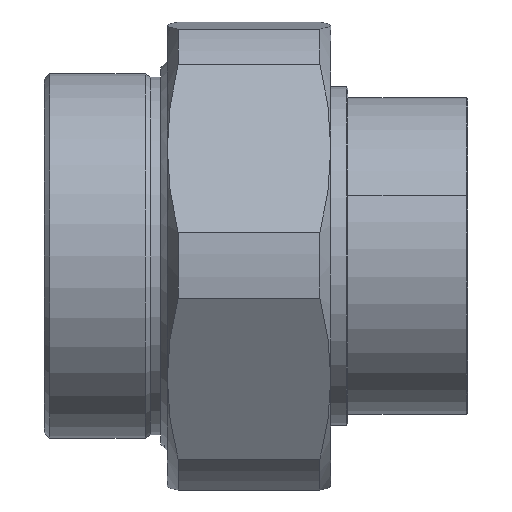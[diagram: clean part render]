
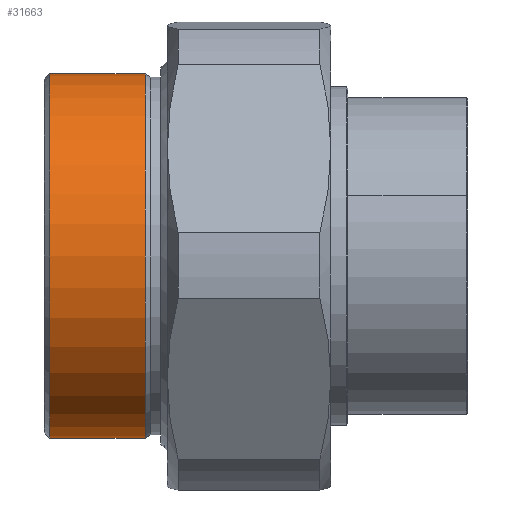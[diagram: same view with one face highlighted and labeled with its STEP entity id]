
A CAD part, front view. The second image highlights one B-rep face of the part: STEP entity #31663.
In plain terms, the highlighted cylindrical face has radius 34 mm (diameter 68 mm), a partial arc.
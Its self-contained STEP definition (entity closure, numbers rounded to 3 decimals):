
#7396 = VERTEX_POINT('',#7397);
#7397 = CARTESIAN_POINT('',(-115.615,5.796,72.65));
#7411 = CONICAL_SURFACE('',#7412,34.,0.785);
#7412 = AXIS2_PLACEMENT_3D('',#7413,#7414,#7415);
#7413 = CARTESIAN_POINT('',(-115.615,5.796,38.65));
#7414 = DIRECTION('',(1.,0.,0.));
#7415 = DIRECTION('',(0.,0.,-1.));
#7424 = VERTEX_POINT('',#7425);
#7425 = CARTESIAN_POINT('',(-115.615,5.796,4.65));
#7440 = CYLINDRICAL_SURFACE('',#7441,34.);
#7441 = AXIS2_PLACEMENT_3D('',#7442,#7443,#7444);
#7442 = CARTESIAN_POINT('',(-57.904,5.796,38.65));
#7443 = DIRECTION('',(1.,0.,0.));
#7444 = DIRECTION('',(0.,0.,-1.));
#11808 = VERTEX_POINT('',#11809);
#11809 = CARTESIAN_POINT('',(-97.854,5.796,4.65));
#11823 = CONICAL_SURFACE('',#11824,34.,0.605);
#11824 = AXIS2_PLACEMENT_3D('',#11825,#11826,#11827);
#11825 = CARTESIAN_POINT('',(-97.854,5.796,38.65));
#11826 = DIRECTION('',(-1.,0.,0.));
#11827 = DIRECTION('',(0.,0.,1.));
#11836 = VERTEX_POINT('',#11837);
#11837 = CARTESIAN_POINT('',(-97.854,5.796,72.65));
#11884 = EDGE_CURVE('',#7396,#11836,#11885,.T.);
#11885 = SURFACE_CURVE('',#11886,(#11890,#11897),.PCURVE_S1.);
#11886 = LINE('',#11887,#11888);
#11887 = CARTESIAN_POINT('',(-57.904,5.796,72.65));
#11888 = VECTOR('',#11889,1.);
#11889 = DIRECTION('',(1.,0.,0.));
#11890 = PCURVE('',#7440,#11891);
#11891 = DEFINITIONAL_REPRESENTATION('',(#11892),#11896);
#11892 = LINE('',#11893,#11894);
#11893 = CARTESIAN_POINT('',(3.142,0.));
#11894 = VECTOR('',#11895,1.);
#11895 = DIRECTION('',(0.,1.));
#11896 = ( GEOMETRIC_REPRESENTATION_CONTEXT(2) 
PARAMETRIC_REPRESENTATION_CONTEXT() REPRESENTATION_CONTEXT('2D SPACE',''
  ) );
#11897 = PCURVE('',#11898,#11903);
#11898 = CYLINDRICAL_SURFACE('',#11899,34.);
#11899 = AXIS2_PLACEMENT_3D('',#11900,#11901,#11902);
#11900 = CARTESIAN_POINT('',(-57.904,5.796,38.65));
#11901 = DIRECTION('',(1.,0.,0.));
#11902 = DIRECTION('',(0.,0.,-1.));
#11903 = DEFINITIONAL_REPRESENTATION('',(#11904),#11908);
#11904 = LINE('',#11905,#11906);
#11905 = CARTESIAN_POINT('',(3.142,0.));
#11906 = VECTOR('',#11907,1.);
#11907 = DIRECTION('',(0.,1.));
#11908 = ( GEOMETRIC_REPRESENTATION_CONTEXT(2) 
PARAMETRIC_REPRESENTATION_CONTEXT() REPRESENTATION_CONTEXT('2D SPACE',''
  ) );
#11911 = EDGE_CURVE('',#7424,#11808,#11912,.T.);
#11912 = SURFACE_CURVE('',#11913,(#11917,#11924),.PCURVE_S1.);
#11913 = LINE('',#11914,#11915);
#11914 = CARTESIAN_POINT('',(-57.904,5.796,4.65));
#11915 = VECTOR('',#11916,1.);
#11916 = DIRECTION('',(1.,0.,0.));
#11917 = PCURVE('',#7440,#11918);
#11918 = DEFINITIONAL_REPRESENTATION('',(#11919),#11923);
#11919 = LINE('',#11920,#11921);
#11920 = CARTESIAN_POINT('',(0.,0.));
#11921 = VECTOR('',#11922,1.);
#11922 = DIRECTION('',(0.,1.));
#11923 = ( GEOMETRIC_REPRESENTATION_CONTEXT(2) 
PARAMETRIC_REPRESENTATION_CONTEXT() REPRESENTATION_CONTEXT('2D SPACE',''
  ) );
#11924 = PCURVE('',#11898,#11925);
#11925 = DEFINITIONAL_REPRESENTATION('',(#11926),#11930);
#11926 = LINE('',#11927,#11928);
#11927 = CARTESIAN_POINT('',(6.283,0.));
#11928 = VECTOR('',#11929,1.);
#11929 = DIRECTION('',(0.,1.));
#11930 = ( GEOMETRIC_REPRESENTATION_CONTEXT(2) 
PARAMETRIC_REPRESENTATION_CONTEXT() REPRESENTATION_CONTEXT('2D SPACE',''
  ) );
#31663 = ADVANCED_FACE('',(#31664),#11898,.T.);
#31664 = FACE_BOUND('',#31665,.T.);
#31665 = EDGE_LOOP('',(#31666,#31667,#31689,#31690));
#31666 = ORIENTED_EDGE('',*,*,#11884,.F.);
#31667 = ORIENTED_EDGE('',*,*,#31668,.T.);
#31668 = EDGE_CURVE('',#7396,#7424,#31669,.T.);
#31669 = SURFACE_CURVE('',#31670,(#31675,#31682),.PCURVE_S1.);
#31670 = CIRCLE('',#31671,34.);
#31671 = AXIS2_PLACEMENT_3D('',#31672,#31673,#31674);
#31672 = CARTESIAN_POINT('',(-115.615,5.796,38.65));
#31673 = DIRECTION('',(1.,0.,0.));
#31674 = DIRECTION('',(0.,0.,-1.));
#31675 = PCURVE('',#11898,#31676);
#31676 = DEFINITIONAL_REPRESENTATION('',(#31677),#31681);
#31677 = LINE('',#31678,#31679);
#31678 = CARTESIAN_POINT('',(0.,-57.71));
#31679 = VECTOR('',#31680,1.);
#31680 = DIRECTION('',(1.,0.));
#31681 = ( GEOMETRIC_REPRESENTATION_CONTEXT(2) 
PARAMETRIC_REPRESENTATION_CONTEXT() REPRESENTATION_CONTEXT('2D SPACE',''
  ) );
#31682 = PCURVE('',#7411,#31683);
#31683 = DEFINITIONAL_REPRESENTATION('',(#31684),#31688);
#31684 = LINE('',#31685,#31686);
#31685 = CARTESIAN_POINT('',(0.,0.));
#31686 = VECTOR('',#31687,1.);
#31687 = DIRECTION('',(1.,0.));
#31688 = ( GEOMETRIC_REPRESENTATION_CONTEXT(2) 
PARAMETRIC_REPRESENTATION_CONTEXT() REPRESENTATION_CONTEXT('2D SPACE',''
  ) );
#31689 = ORIENTED_EDGE('',*,*,#11911,.T.);
#31690 = ORIENTED_EDGE('',*,*,#31691,.F.);
#31691 = EDGE_CURVE('',#11836,#11808,#31692,.T.);
#31692 = SURFACE_CURVE('',#31693,(#31698,#31705),.PCURVE_S1.);
#31693 = CIRCLE('',#31694,34.);
#31694 = AXIS2_PLACEMENT_3D('',#31695,#31696,#31697);
#31695 = CARTESIAN_POINT('',(-97.854,5.796,38.65));
#31696 = DIRECTION('',(1.,0.,0.));
#31697 = DIRECTION('',(0.,0.,-1.));
#31698 = PCURVE('',#11898,#31699);
#31699 = DEFINITIONAL_REPRESENTATION('',(#31700),#31704);
#31700 = LINE('',#31701,#31702);
#31701 = CARTESIAN_POINT('',(0.,-39.949));
#31702 = VECTOR('',#31703,1.);
#31703 = DIRECTION('',(1.,0.));
#31704 = ( GEOMETRIC_REPRESENTATION_CONTEXT(2) 
PARAMETRIC_REPRESENTATION_CONTEXT() REPRESENTATION_CONTEXT('2D SPACE',''
  ) );
#31705 = PCURVE('',#11823,#31706);
#31706 = DEFINITIONAL_REPRESENTATION('',(#31707),#31711);
#31707 = LINE('',#31708,#31709);
#31708 = CARTESIAN_POINT('',(9.425,0.));
#31709 = VECTOR('',#31710,1.);
#31710 = DIRECTION('',(-1.,0.));
#31711 = ( GEOMETRIC_REPRESENTATION_CONTEXT(2) 
PARAMETRIC_REPRESENTATION_CONTEXT() REPRESENTATION_CONTEXT('2D SPACE',''
  ) );
